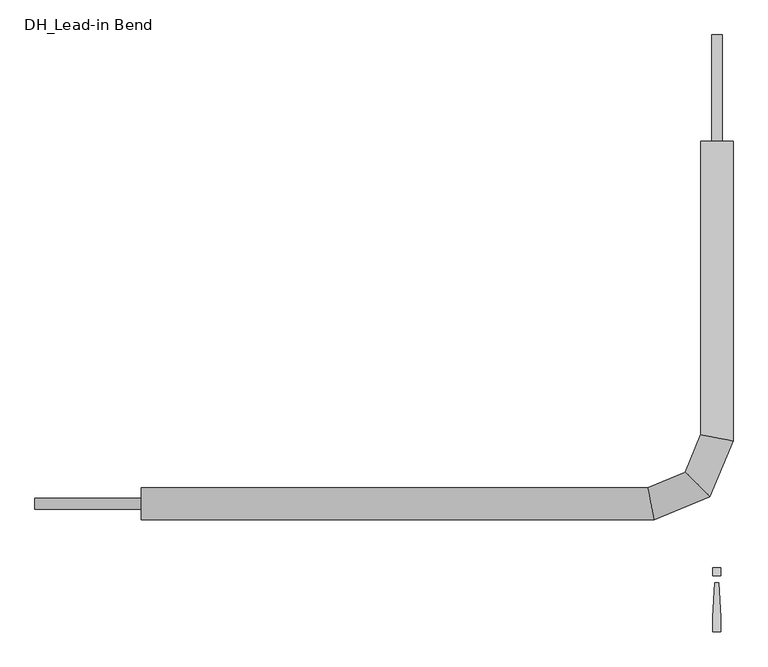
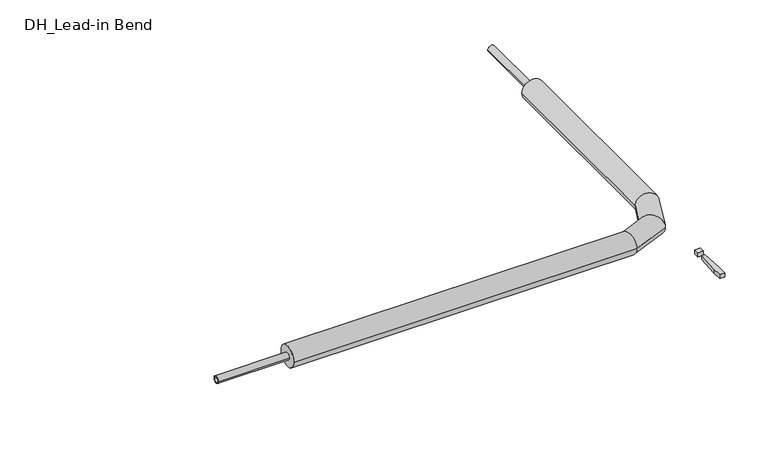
"""IFC4 building model written with IfcOpenShell, lengths in millimetres: pipe fitting geometry, DH_Lead-in Bend : RVT/RVX/RTX UNO 7.4 DW."""

from ifc_helpers import new_model, si_unit, point, frame, origin, origin_with_axes, origin_2d, place, context, project, spatial, polyline, circle_curve, ellipse_curve, trimmed, segment, composite_curve, outline, extrude, source, transform, mapped, element, save
from ifc_brep_helpers import plane_surface, cylinder_surface, advanced_brep


def dh_lead_in_bend_3db4022c(model_context):
    return source(origin(), model_context, "Body", "SolidModel", [
        advanced_brep(
        [(-1350.0, -38.0, 0.0), (-1350.0, 38.0, 0.0), (-147.44133, -38.0, 0.0), (-162.55867, 38.0, 0.0), (38.0, 850.0, 0.0), (-38.0, 850.0, 0.0), (-38.0, 162.55867, 0.0), (38.0, 147.44133, 0.0), (-16.3145081, 16.3145081, 0.0), (-74.4823898, 74.4823898, 0.0)],
        [
            (0, 1, circle_curve(frame((-1350.0, 0.0, 0.0), z_axis=(-1.0, 0.0, 0.0), x_axis=(0.0, 1.0, 0.0)), 38.0)),
            (1, 0, circle_curve(frame((-1350.0, 0.0, 0.0), z_axis=(-1.0, 0.0, 0.0), x_axis=(0.0, 1.0, 0.0)), 38.0)),
            (0, 2),
            (2, 3, ellipse_curve(frame((-155.0, 0.0, 0.0), z_axis=(-0.9807852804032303, -0.19509032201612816, 0.0), x_axis=(-0.19509032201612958, 0.9807852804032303, 0.0)), 38.744464, 38.0)),
            (3, 1),
            (3, 2, ellipse_curve(frame((-155.0, 0.0, 0.0), z_axis=(-0.9807852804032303, -0.19509032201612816, 0.0), x_axis=(-0.19509032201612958, 0.9807852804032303, 0.0)), 38.744464, 38.0)),
            (4, 5, circle_curve(frame((0.0, 850.0, 0.0), z_axis=(0.0, 1.0, 0.0), x_axis=(-1.0, 0.0, 0.0)), 38.0)),
            (5, 4, circle_curve(frame((0.0, 850.0, 0.0), z_axis=(0.0, 1.0, 0.0), x_axis=(-1.0, 0.0, 0.0)), 38.0)),
            (6, 7, ellipse_curve(frame((0.0, 155.0, 0.0), z_axis=(0.1950903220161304, 0.9807852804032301, 0.0), x_axis=(0.9807852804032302, -0.1950903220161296, 0.0)), 38.744464, 38.0)),
            (7, 4),
            (5, 6),
            (7, 6, ellipse_curve(frame((0.0, 155.0, 0.0), z_axis=(0.1950903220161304, 0.9807852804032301, 0.0), x_axis=(0.9807852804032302, -0.1950903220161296, 0.0)), 38.744464, 38.0)),
            (2, 8),
            (8, 9, ellipse_curve(frame((-45.3984489, 45.3984489, 0.0), z_axis=(-0.707106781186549, -0.7071067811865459, 0.0), x_axis=(-0.7071067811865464, 0.7071067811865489, 0.0)), 41.1309036, 38.0)),
            (9, 3),
            (9, 8, ellipse_curve(frame((-45.3984489, 45.3984489, 0.0), z_axis=(-0.707106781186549, -0.7071067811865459, 0.0), x_axis=(-0.7071067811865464, 0.7071067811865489, 0.0)), 41.1309036, 38.0)),
            (8, 7),
            (6, 9),
        ],
        [
            plane_surface(frame((-1350.0, 0.0, 0.0), z_axis=(-1.0, 0.0, 0.0), x_axis=(0.0, 0.0, 1.0))),
            cylinder_surface(frame((-1350.0, 0.0, 0.0), z_axis=(-1.0, 0.0, 0.0), x_axis=(0.0, 1.0, 0.0)), 38.0),
            plane_surface(frame((0.0, 850.0, 0.0), z_axis=(0.0, 1.0, 0.0), x_axis=(0.0, 0.0, 1.0))),
            cylinder_surface(frame((0.0, 155.0, 0.0), z_axis=(0.0, -1.0, 0.0), x_axis=(-1.0, 0.0, 0.0)), 38.0),
            cylinder_surface(frame((-155.0, 0.0, 0.0), z_axis=(-0.9238795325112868, -0.38268343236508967, 0.0), x_axis=(-0.38268343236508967, 0.9238795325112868, 0.0)), 38.0),
            cylinder_surface(frame((-45.3984489, 45.3984489, 0.0), z_axis=(-0.3826834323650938, -0.9238795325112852, 0.0), x_axis=(-0.9238795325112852, 0.3826834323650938, 0.0)), 38.0),
        ],
        [
            (0, [[1, 2]]),
            (1, [[-1, 3, 4, 5]]),
            (1, [[-2, -5, 6, -3]]),
            (2, [[7, 8]]),
            (3, [[9, 10, -8, 11]]),
            (3, [[12, -11, -7, -10]]),
            (4, [[-4, 13, 14, 15]]),
            (4, [[-6, -15, 16, -13]]),
            (5, [[-14, 17, -9, 18]]),
            (5, [[-16, -18, -12, -17]]),
        ],
    ),
        extrude(outline(polyline([(4.7088895, -185.3166715), (9.4177791, -266.6553807), (9.4177791, -300.6844652), (-9.4177791, -300.6844652), (-9.4177791, -266.6553807), (-4.7088895, -185.3166715), (4.7088895, -185.3166715)])), origin_with_axes(), (0.0, 0.0, 1.0), 15.0),
        extrude(outline(polyline([(9.4177791, -150.0), (9.4177791, -168.8355582), (-9.4177791, -168.8355582), (-9.4177791, -150.0), (9.4177791, -150.0)])), origin_with_axes(), (0.0, 0.0, 1.0), 15.0),
        extrude(outline(composite_curve([segment(trimmed(circle_curve(origin_2d(), 12.5), [point((-12.5, 0.0))], [point((12.5, 0.0))], False, "CARTESIAN"), True, "CONTINUOUS"), segment(trimmed(circle_curve(origin_2d(), 12.5), [point((12.5, 0.0))], [point((-12.5, 0.0))], False, "CARTESIAN"), True, "CONTINUOUS")], self_intersect=False), holes=[composite_curve([segment(trimmed(circle_curve(origin_2d(), 9.0), [point((-9.0, 0.0))], [point((9.0, 0.0))], True, "CARTESIAN"), True, "CONTINUOUS"), segment(trimmed(circle_curve(origin_2d(), 9.0), [point((9.0, 0.0))], [point((-9.0, 0.0))], True, "CARTESIAN"), True, "CONTINUOUS")], self_intersect=False)]), frame((-1600.0, 0.0, 0.0), z_axis=(1.0, 0.0, 0.0), x_axis=(0.0, 1.0, 0.0)), (0.0, 0.0, 1.0), 250.0),
        extrude(outline(composite_curve([segment(trimmed(circle_curve(origin_2d(), 12.5), [point((0.0, 12.5))], [point((0.0, -12.5))], False, "CARTESIAN"), True, "CONTINUOUS"), segment(trimmed(circle_curve(origin_2d(), 12.5), [point((0.0, -12.5))], [point((0.0, 12.5))], False, "CARTESIAN"), True, "CONTINUOUS")], self_intersect=False), holes=[composite_curve([segment(trimmed(circle_curve(origin_2d(), 9.0), [point((0.0, 9.0))], [point((0.0, -9.0))], True, "CARTESIAN"), True, "CONTINUOUS"), segment(trimmed(circle_curve(origin_2d(), 9.0), [point((0.0, -9.0))], [point((0.0, 9.0))], True, "CARTESIAN"), True, "CONTINUOUS")], self_intersect=False)]), frame((0.0, 850.0, 0.0), z_axis=(0.0, 1.0, 0.0), x_axis=(0.0, 0.0, 1.0)), (0.0, 0.0, 1.0), 250.0),
    ])


if __name__ == "__main__":
    model = new_model("IFC4")
    model_context = context("Model", 3, world=origin())
    ifc_project = project(units=[si_unit("LENGTHUNIT", "METRE", prefix="MILLI")], contexts=[model_context])
    site = spatial("IfcSite", under=ifc_project)
    building = spatial("IfcBuilding", under=site)
    placement = place(None, origin())
    dh_lead_in_bend_shape = dh_lead_in_bend_3db4022c(model_context)
    element("IfcPipeFitting", 1, ObjectType="DH_Lead-in Bend : RVT/RVX/RTX UNO 7.4 DW", at=placement, inside=building, context=model_context, shape_type="MappedRepresentation", body=[
        mapped(dh_lead_in_bend_shape, transform((0.0, 0.0, 0.0), x_axis=(1.0, 0.0, 0.0), y_axis=(0.0, 1.0, 0.0), z_axis=(0.0, 0.0, 1.0))),
    ])
    save(model, "model.ifc")
